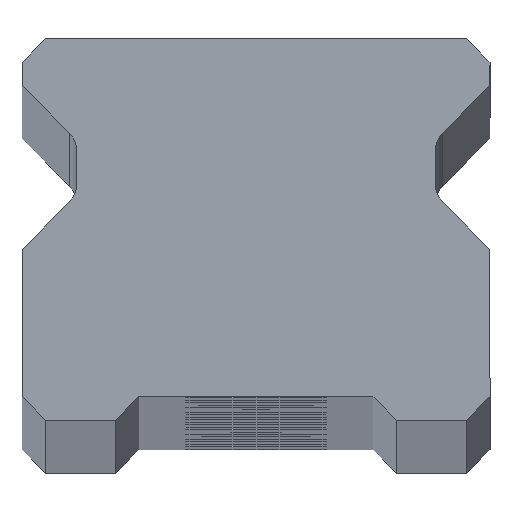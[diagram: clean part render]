
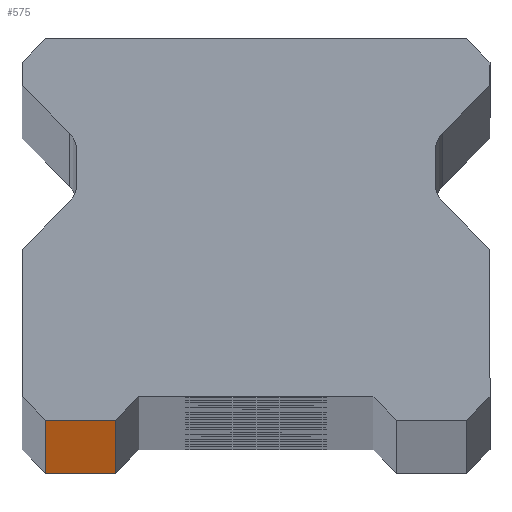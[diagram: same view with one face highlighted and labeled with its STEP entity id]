
A CAD part, top view. The second image highlights one B-rep face of the part: STEP entity #575.
In plain terms, the highlighted planar face has unit normal (0, -1, 0).
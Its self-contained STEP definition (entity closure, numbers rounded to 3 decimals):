
#47 = DIRECTION ( 'NONE',  ( 0., 0., -1. ) ) ;
#99 = CARTESIAN_POINT ( 'NONE',  ( -9., 0., 650. ) ) ;
#172 = PLANE ( 'NONE',  #990 ) ;
#207 = CARTESIAN_POINT ( 'NONE',  ( 10., 0., 650. ) ) ;
#426 = VECTOR ( 'NONE', #2525, 1000. ) ;
#487 = ORIENTED_EDGE ( 'NONE', *, *, #1552, .T. ) ;
#575 = ADVANCED_FACE ( 'NONE', ( #3160 ), #172, .F. ) ;
#682 = LINE ( 'NONE', #1289, #2999 ) ;
#697 = CARTESIAN_POINT ( 'NONE',  ( -9., 0., -650. ) ) ;
#893 = CARTESIAN_POINT ( 'NONE',  ( 10., 0., -650. ) ) ;
#990 = AXIS2_PLACEMENT_3D ( 'NONE', #207, #3507, #1526 ) ;
#1077 = ORIENTED_EDGE ( 'NONE', *, *, #1183, .F. ) ;
#1183 = EDGE_CURVE ( 'NONE', #1299, #2620, #2755, .T. ) ;
#1289 = CARTESIAN_POINT ( 'NONE',  ( -6., 0., -650. ) ) ;
#1299 = VERTEX_POINT ( 'NONE', #99 ) ;
#1405 = CARTESIAN_POINT ( 'NONE',  ( 10., 0., 650. ) ) ;
#1526 = DIRECTION ( 'NONE',  ( -1., 0., 0. ) ) ;
#1552 = EDGE_CURVE ( 'NONE', #1958, #2620, #682, .T. ) ;
#1706 = CARTESIAN_POINT ( 'NONE',  ( -9., 0., 650. ) ) ;
#1811 = VECTOR ( 'NONE', #2015, 1000. ) ;
#1882 = DIRECTION ( 'NONE',  ( 0., 0., 1. ) ) ;
#1892 = CARTESIAN_POINT ( 'NONE',  ( -6., 0., 650. ) ) ;
#1958 = VERTEX_POINT ( 'NONE', #3796 ) ;
#2015 = DIRECTION ( 'NONE',  ( 1., 0., 0. ) ) ;
#2369 = ORIENTED_EDGE ( 'NONE', *, *, #2906, .T. ) ;
#2401 = LINE ( 'NONE', #1706, #3001 ) ;
#2414 = ORIENTED_EDGE ( 'NONE', *, *, #3452, .T. ) ;
#2525 = DIRECTION ( 'NONE',  ( 1., 0., 0. ) ) ;
#2550 = LINE ( 'NONE', #893, #426 ) ;
#2620 = VERTEX_POINT ( 'NONE', #1892 ) ;
#2755 = LINE ( 'NONE', #1405, #1811 ) ;
#2906 = EDGE_CURVE ( 'NONE', #1299, #4212, #2401, .T. ) ;
#2999 = VECTOR ( 'NONE', #1882, 1000. ) ;
#3001 = VECTOR ( 'NONE', #47, 1000. ) ;
#3136 = EDGE_LOOP ( 'NONE', ( #2414, #487, #1077, #2369 ) ) ;
#3160 = FACE_OUTER_BOUND ( 'NONE', #3136, .T. ) ;
#3452 = EDGE_CURVE ( 'NONE', #4212, #1958, #2550, .T. ) ;
#3507 = DIRECTION ( 'NONE',  ( 0., 1., 0. ) ) ;
#3796 = CARTESIAN_POINT ( 'NONE',  ( -6., 0., -650. ) ) ;
#4212 = VERTEX_POINT ( 'NONE', #697 ) ;
